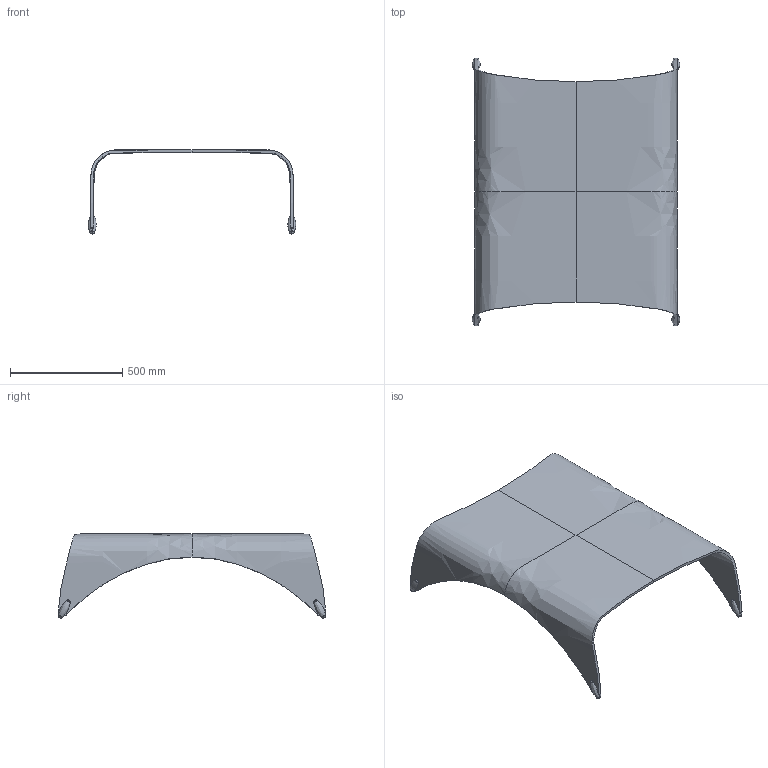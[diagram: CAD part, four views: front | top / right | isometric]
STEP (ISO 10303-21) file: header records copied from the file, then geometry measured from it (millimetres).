
FILE_DESCRIPTION(/* description */ (''),/* implementation_level */ '2;1');
FILE_NAME(/* name */ '039 - Genio 120x92',/* time_stamp */ '2010-11-04T08:47:45+01:00',/* author */ (''),/* organization */ (''),/* preprocessor_version */ 'ST-DEVELOPER v10',/* originating_system */ '',/* authorisation */ '');
FILE_SCHEMA (('CONFIG_CONTROL_DESIGN'));
Length unit declared in the file: centimetre
Products named in the file (1): 1
Bounding box: 923.9 x 1191.6 x 374.45 mm (x, y, z)
Volume: 14719874.7 mm3; surface area: 2541228.1 mm2
Topology: 5 solids, 5 shells, 64 faces, 156 edges, 94 vertices
Faces by surface type: bspline 56, plane 8
Entity records: 5142 total; most frequent: CARTESIAN_POINT 4168, ORIENTED_EDGE 296, EDGE_CURVE 148, B_SPLINE_CURVE_WITH_KNOTS 100, VERTEX_POINT 94, ADVANCED_FACE 64, FACE_OUTER_BOUND 64, EDGE_LOOP 64
